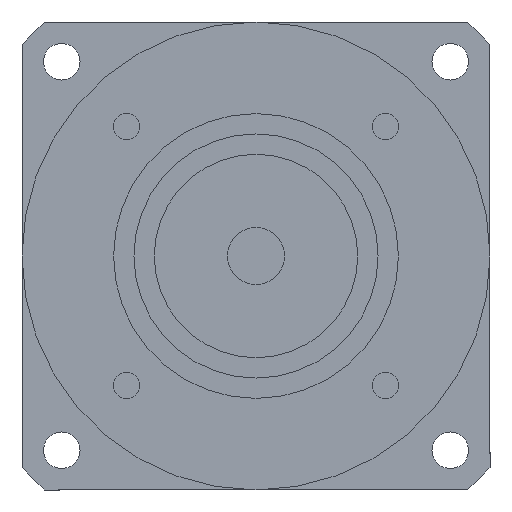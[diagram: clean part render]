
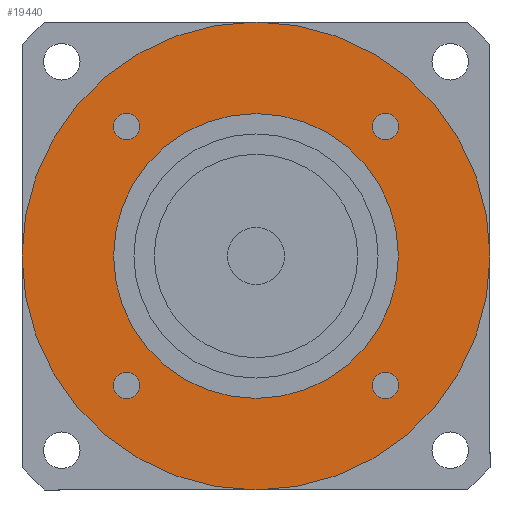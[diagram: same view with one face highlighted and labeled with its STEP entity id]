
A CAD part, left-side view. The second image highlights one B-rep face of the part: STEP entity #19440.
In plain terms, the highlighted planar face has unit normal (-1, 0, 0) as drawn and (0, 0, -1) by its records, which use the part's own axes.
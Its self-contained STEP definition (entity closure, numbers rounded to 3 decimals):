
#18110=CARTESIAN_POINT('',(57.5,0.,-101.));
#18120=VERTEX_POINT('',#18110);
#18150=CARTESIAN_POINT('',(0.,0.,
-101.));
#18160=DIRECTION('',(0.,0.,1.));
#18170=DIRECTION('',(0.,-1.,0.));
#18180=AXIS2_PLACEMENT_3D('',#18150,#18160,#18170);
#18190=CIRCLE('',#18180,57.5);
#18200=CARTESIAN_POINT('',(0.,-57.5,-101.));
#18210=VERTEX_POINT('',#18200);
#18220=EDGE_CURVE('',#18210,#18120,#18190,.T.);
#18240=CARTESIAN_POINT('',(-57.5,0.,-101.));
#18250=VERTEX_POINT('',#18240);
#18260=EDGE_CURVE('',#18250,#18210,#18190,.T.);
#18380=CARTESIAN_POINT('',(0.,0.,
-101.));
#18390=DIRECTION('',(0.,0.,1.));
#18400=DIRECTION('',(-1.,0.,0.));
#18410=AXIS2_PLACEMENT_3D('',#18380,#18390,#18400);
#18420=PLANE('',#18410);
#18430=CARTESIAN_POINT('',(31.82,-31.82,-101.));
#18440=DIRECTION('',(0.,0.,-1.));
#18450=DIRECTION('',(1.,0.,0.));
#18460=AXIS2_PLACEMENT_3D('',#18430,#18440,#18450);
#18470=CIRCLE('',#18460,3.25);
#18480=CARTESIAN_POINT('',(35.07,-31.82,-101.));
#18490=VERTEX_POINT('',#18480);
#18500=CARTESIAN_POINT('',(31.82,-35.07,-101.));
#18510=VERTEX_POINT('',#18500);
#18520=EDGE_CURVE('',#18490,#18510,#18470,.T.);
#18530=ORIENTED_EDGE('',*,*,#18520,.F.);
#18540=CARTESIAN_POINT('',(31.82,-28.57,-101.));
#18550=VERTEX_POINT('',#18540);
#18560=EDGE_CURVE('',#18510,#18550,#18470,.T.);
#18570=ORIENTED_EDGE('',*,*,#18560,.F.);
#18580=EDGE_CURVE('',#18550,#18490,#18470,.T.);
#18590=ORIENTED_EDGE('',*,*,#18580,.F.);
#18600=EDGE_LOOP('',(#18590,#18570,#18530));
#18610=FACE_BOUND('',#18600,.T.);
#18620=CARTESIAN_POINT('',(31.82,31.82,-101.));
#18630=DIRECTION('',(0.,0.,-1.));
#18640=DIRECTION('',(0.,1.,0.));
#18650=AXIS2_PLACEMENT_3D('',#18620,#18630,#18640);
#18660=CIRCLE('',#18650,3.25);
#18670=CARTESIAN_POINT('',(31.82,35.07,-101.));
#18680=VERTEX_POINT('',#18670);
#18690=CARTESIAN_POINT('',(35.07,31.82,-101.));
#18700=VERTEX_POINT('',#18690);
#18710=EDGE_CURVE('',#18680,#18700,#18660,.T.);
#18720=ORIENTED_EDGE('',*,*,#18710,.F.);
#18730=CARTESIAN_POINT('',(28.57,31.82,-101.));
#18740=VERTEX_POINT('',#18730);
#18750=EDGE_CURVE('',#18700,#18740,#18660,.T.);
#18760=ORIENTED_EDGE('',*,*,#18750,.F.);
#18770=EDGE_CURVE('',#18740,#18680,#18660,.T.);
#18780=ORIENTED_EDGE('',*,*,#18770,.F.);
#18790=EDGE_LOOP('',(#18780,#18760,#18720));
#18800=FACE_BOUND('',#18790,.T.);
#18810=CARTESIAN_POINT('',(-31.82,31.82,-101.));
#18820=DIRECTION('',(0.,0.,-1.));
#18830=DIRECTION('',(-1.,0.,0.));
#18840=AXIS2_PLACEMENT_3D('',#18810,#18820,#18830);
#18850=CIRCLE('',#18840,3.25);
#18860=CARTESIAN_POINT('',(-35.07,31.82,-101.));
#18870=VERTEX_POINT('',#18860);
#18880=CARTESIAN_POINT('',(-31.82,35.07,-101.));
#18890=VERTEX_POINT('',#18880);
#18900=EDGE_CURVE('',#18870,#18890,#18850,.T.);
#18910=ORIENTED_EDGE('',*,*,#18900,.F.);
#18920=CARTESIAN_POINT('',(-31.82,28.57,-101.));
#18930=VERTEX_POINT('',#18920);
#18940=EDGE_CURVE('',#18890,#18930,#18850,.T.);
#18950=ORIENTED_EDGE('',*,*,#18940,.F.);
#18960=EDGE_CURVE('',#18930,#18870,#18850,.T.);
#18970=ORIENTED_EDGE('',*,*,#18960,.F.);
#18980=EDGE_LOOP('',(#18970,#18950,#18910));
#18990=FACE_BOUND('',#18980,.T.);
#19000=CARTESIAN_POINT('',(-31.82,-31.82,-101.));
#19010=DIRECTION('',(0.,0.,-1.));
#19020=DIRECTION('',(0.,-1.,0.));
#19030=AXIS2_PLACEMENT_3D('',#19000,#19010,#19020);
#19040=CIRCLE('',#19030,3.25);
#19050=CARTESIAN_POINT('',(-31.82,-35.07,-101.));
#19060=VERTEX_POINT('',#19050);
#19070=CARTESIAN_POINT('',(-35.07,-31.82,-101.));
#19080=VERTEX_POINT('',#19070);
#19090=EDGE_CURVE('',#19060,#19080,#19040,.T.);
#19100=ORIENTED_EDGE('',*,*,#19090,.F.);
#19110=CARTESIAN_POINT('',(-28.57,-31.82,-101.));
#19120=VERTEX_POINT('',#19110);
#19130=EDGE_CURVE('',#19080,#19120,#19040,.T.);
#19140=ORIENTED_EDGE('',*,*,#19130,.F.);
#19150=EDGE_CURVE('',#19120,#19060,#19040,.T.);
#19160=ORIENTED_EDGE('',*,*,#19150,.F.);
#19170=EDGE_LOOP('',(#19160,#19140,#19100));
#19180=FACE_BOUND('',#19170,.T.);
#19190=ORIENTED_EDGE('',*,*,#18220,.F.);
#19200=EDGE_CURVE('',#18120,#18250,#18190,.T.);
#19210=ORIENTED_EDGE('',*,*,#19200,.F.);
#19220=ORIENTED_EDGE('',*,*,#18260,.F.);
#19230=EDGE_LOOP('',(#19220,#19210,#19190));
#19240=FACE_OUTER_BOUND('',#19230,.T.);
#19250=CARTESIAN_POINT('',(0.,0.,
-101.));
#19260=DIRECTION('',(0.,0.,1.));
#19270=DIRECTION('',(0.,-1.,0.));
#19280=AXIS2_PLACEMENT_3D('',#19250,#19260,#19270);
#19290=CIRCLE('',#19280,35.);
#19300=CARTESIAN_POINT('',(35.,0.,-101.));
#19310=VERTEX_POINT('',#19300);
#19320=CARTESIAN_POINT('',(-35.,0.,-101.));
#19330=VERTEX_POINT('',#19320);
#19340=EDGE_CURVE('',#19310,#19330,#19290,.T.);
#19350=ORIENTED_EDGE('',*,*,#19340,.T.);
#19360=CARTESIAN_POINT('',(0.,-35.,-101.));
#19370=VERTEX_POINT('',#19360);
#19380=EDGE_CURVE('',#19370,#19310,#19290,.T.);
#19390=ORIENTED_EDGE('',*,*,#19380,.T.);
#19400=EDGE_CURVE('',#19330,#19370,#19290,.T.);
#19410=ORIENTED_EDGE('',*,*,#19400,.T.);
#19420=EDGE_LOOP('',(#19410,#19390,#19350));
#19430=FACE_BOUND('',#19420,.T.);
#19440=ADVANCED_FACE('',(#18610,#18800,#18990,#19180,#19240,#19430),
#18420,.F.);
